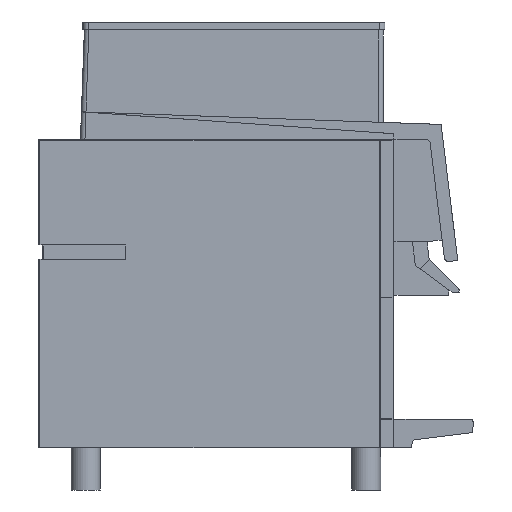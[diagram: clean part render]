
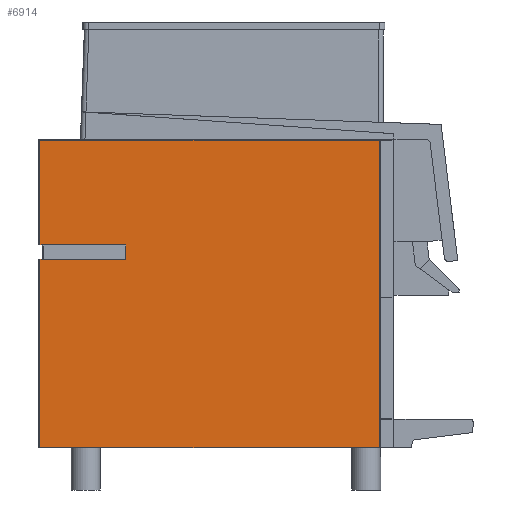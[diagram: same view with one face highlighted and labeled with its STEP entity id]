
A CAD part, left-side view. The second image highlights one B-rep face of the part: STEP entity #6914.
In plain terms, the highlighted planar face has unit normal (-1, 0, 0).
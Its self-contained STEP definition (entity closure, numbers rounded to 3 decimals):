
#708=ORIENTED_EDGE('',*,*,#1836,.F.);
#709=ORIENTED_EDGE('',*,*,#2108,.T.);
#710=ORIENTED_EDGE('',*,*,#2109,.T.);
#711=ORIENTED_EDGE('',*,*,#2110,.T.);
#712=ORIENTED_EDGE('',*,*,#2111,.F.);
#713=ORIENTED_EDGE('',*,*,#2112,.F.);
#714=ORIENTED_EDGE('',*,*,#2113,.F.);
#715=ORIENTED_EDGE('',*,*,#2114,.T.);
#716=ORIENTED_EDGE('',*,*,#2115,.T.);
#717=ORIENTED_EDGE('',*,*,#2116,.T.);
#1836=EDGE_CURVE('',#2573,#2574,#3041,.T.);
#2108=EDGE_CURVE('',#2573,#2784,#3248,.T.);
#2109=EDGE_CURVE('',#2784,#2785,#3249,.F.);
#2110=EDGE_CURVE('',#2785,#2786,#3250,.F.);
#2111=EDGE_CURVE('',#2787,#2786,#3251,.T.);
#2112=EDGE_CURVE('',#2788,#2787,#3252,.T.);
#2113=EDGE_CURVE('',#2789,#2788,#3253,.T.);
#2114=EDGE_CURVE('',#2789,#2790,#3254,.T.);
#2115=EDGE_CURVE('',#2790,#2791,#3255,.T.);
#2116=EDGE_CURVE('',#2791,#2574,#3256,.F.);
#2573=VERTEX_POINT('',#9176);
#2574=VERTEX_POINT('',#9178);
#2784=VERTEX_POINT('',#9708);
#2785=VERTEX_POINT('',#9710);
#2786=VERTEX_POINT('',#9712);
#2787=VERTEX_POINT('',#9714);
#2788=VERTEX_POINT('',#9716);
#2789=VERTEX_POINT('',#9718);
#2790=VERTEX_POINT('',#9720);
#2791=VERTEX_POINT('',#9722);
#3041=LINE('',#9177,#3621);
#3248=LINE('',#9707,#3828);
#3249=LINE('',#9709,#3829);
#3250=LINE('',#9711,#3830);
#3251=LINE('',#9713,#3831);
#3252=LINE('',#9715,#3832);
#3253=LINE('',#9717,#3833);
#3254=LINE('',#9719,#3834);
#3255=LINE('',#9721,#3835);
#3256=LINE('',#9723,#3836);
#3621=VECTOR('',#7675,1000.);
#3828=VECTOR('',#8108,1000.);
#3829=VECTOR('',#8109,1000.);
#3830=VECTOR('',#8110,1000.);
#3831=VECTOR('',#8111,1000.);
#3832=VECTOR('',#8112,1000.);
#3833=VECTOR('',#8113,1000.);
#3834=VECTOR('',#8114,1000.);
#3835=VECTOR('',#8115,1000.);
#3836=VECTOR('',#8116,1000.);
#4204=EDGE_LOOP('',(#708,#709,#710,#711,#712,#713,#714,#715,#716,#717));
#4499=FACE_BOUND('',#4204,.T.);
#4775=PLANE('',#7271);
#6914=ADVANCED_FACE('',(#4499),#4775,.F.);
#7271=AXIS2_PLACEMENT_3D('',#9706,#8106,#8107);
#7675=DIRECTION('',(0.,1.,0.));
#8106=DIRECTION('',(1.,0.,0.));
#8107=DIRECTION('',(0.,1.,0.));
#8108=DIRECTION('',(0.,0.,1.));
#8109=DIRECTION('',(0.,-1.,0.));
#8110=DIRECTION('',(0.,0.,1.));
#8111=DIRECTION('',(0.,1.,0.));
#8112=DIRECTION('',(0.,1.,0.));
#8113=DIRECTION('',(0.,0.,1.));
#8114=DIRECTION('',(0.,1.,0.));
#8115=DIRECTION('',(0.,1.,0.));
#8116=DIRECTION('',(0.,0.,1.));
#9176=CARTESIAN_POINT('',(-160.,-470.,0.));
#9177=CARTESIAN_POINT('',(-160.,-490.,0.));
#9178=CARTESIAN_POINT('',(-160.,-1.2,0.));
#9706=CARTESIAN_POINT('',(-160.,0.,0.));
#9707=CARTESIAN_POINT('',(-160.,-470.,420.5));
#9708=CARTESIAN_POINT('',(-160.,-470.,424.8));
#9709=CARTESIAN_POINT('',(-160.,0.,424.8));
#9710=CARTESIAN_POINT('',(-160.,-1.2,424.8));
#9711=CARTESIAN_POINT('',(-160.,-1.2,0.));
#9712=CARTESIAN_POINT('',(-160.,-1.2,280.));
#9713=CARTESIAN_POINT('',(-160.,-5.,280.));
#9714=CARTESIAN_POINT('',(-160.,-5.133,280.));
#9715=CARTESIAN_POINT('',(-160.,-120.,280.));
#9716=CARTESIAN_POINT('',(-160.,-120.,280.));
#9717=CARTESIAN_POINT('',(-160.,-120.,260.));
#9718=CARTESIAN_POINT('',(-160.,-120.,260.));
#9719=CARTESIAN_POINT('',(-160.,-120.,260.));
#9720=CARTESIAN_POINT('',(-160.,-5.133,260.));
#9721=CARTESIAN_POINT('',(-160.,-5.,260.));
#9722=CARTESIAN_POINT('',(-160.,-1.2,260.));
#9723=CARTESIAN_POINT('',(-160.,-1.2,0.));
